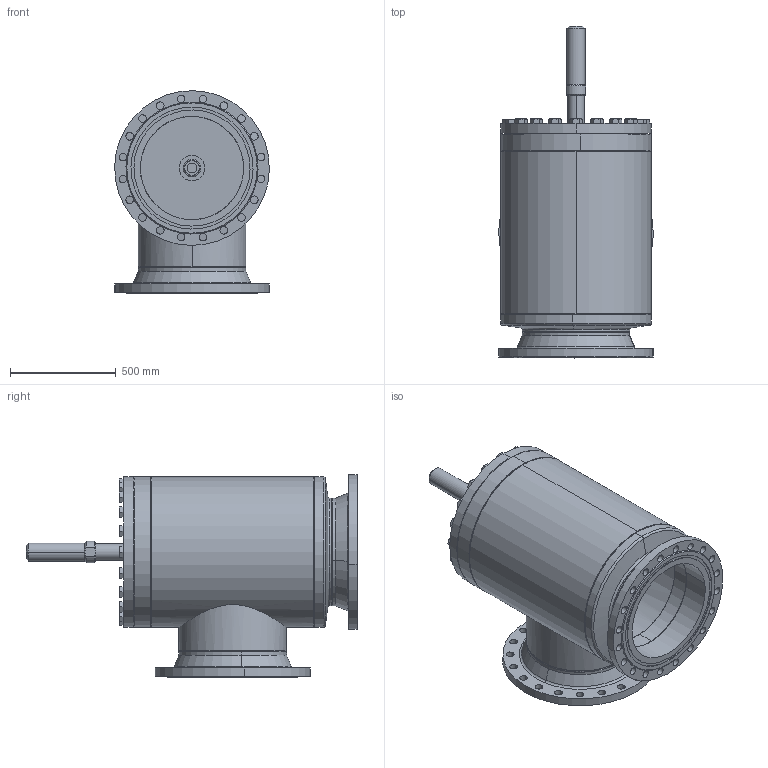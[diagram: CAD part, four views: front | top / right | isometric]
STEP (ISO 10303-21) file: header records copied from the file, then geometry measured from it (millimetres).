
FILE_DESCRIPTION (( 'STEP AP214' ), '1' );
FILE_NAME ('AVR26420C28-DN500_DIN-FL-N_PS25.STEP', '2006-04-28T08:45:45', ( 'Herr Grams' ), ( 'AWP GmbH' ), 'SwSTEP 2.0', 'SolidWorks 2002296', '' );
FILE_SCHEMA (( 'AUTOMOTIVE_DESIGN' ));
Length unit declared in the file: millimetre
Products named in the file (18): AVR26420C28-DN500_DIN-FL-N_PS25; Kappe26300_DN500geschw_Standard; AVR26300B28_Deck+Schr-DN500_Standard; Deckel-kpl26300-DN500_Standard; Buchse1 f Deckel26300-DN500_Standard; Scheibe f Deckel26300-DN500_Standard; bead-deck263-500_Standard; Sechskantschraube-DIN933_M33x 80; Gehäuse-kpl26420-DN500_DIN_PS25_Standard; Gehäuse26300-DN500_Standard; Kopfstück26300-DN500_Standard; Rohrstutzen-A26300-DN500_R1_Standard; Boden26300-DN500_Standard; Flansch-DIN2634-Nut_PS25_DIN-Flansch-DN500_PS25-Nut; bead-DN500-4_Standard; bead-DN500-3_Standard; bead-DN500-2_Standard; bead-DN500-1_Standard
Assembly tree (37 placements, depth 4):
  AVR26420C28-DN500_DIN-FL-N_PS25
    Kappe26300_DN500geschw_Standard
    Gehäuse-kpl26420-DN500_DIN_PS25_Standard
      Kopfstück26300-DN500_Standard
      Boden26300-DN500_Standard
      bead-DN500-3_Standard
      bead-DN500-4_Standard
      bead-DN500-2_Standard
      bead-DN500-1_Standard
      Gehäuse26300-DN500_Standard
      Flansch-DIN2634-Nut_PS25_DIN-Flansch-DN500_PS25-Nut  x2
      Rohrstutzen-A26300-DN500_R1_Standard
    AVR26300B28_Deck+Schr-DN500_Standard
      Sechskantschraube-DIN933_M33x 80  x20
      Deckel-kpl26300-DN500_Standard
        Buchse1 f Deckel26300-DN500_Standard
        Scheibe f Deckel26300-DN500_Standard
        bead-deck263-500_Standard
Bounding box: 729.89 x 1566 x 955.94 mm (x, y, z)
Volume: 121497969.3 mm3; surface area: 9334604.6 mm2
Topology: 34 solids, 34 shells, 809 faces, 1796 edges, 1092 vertices
Faces by surface type: cone 314, cylinder 241, plane 230, bspline 16, torus 8
Entity records: 12906 total; most frequent: CARTESIAN_POINT 5422, DIRECTION 1484, ORIENTED_EDGE 1280, AXIS2_PLACEMENT_3D 645, EDGE_CURVE 640, VERTEX_POINT 412, EDGE_LOOP 390, CIRCLE 348
